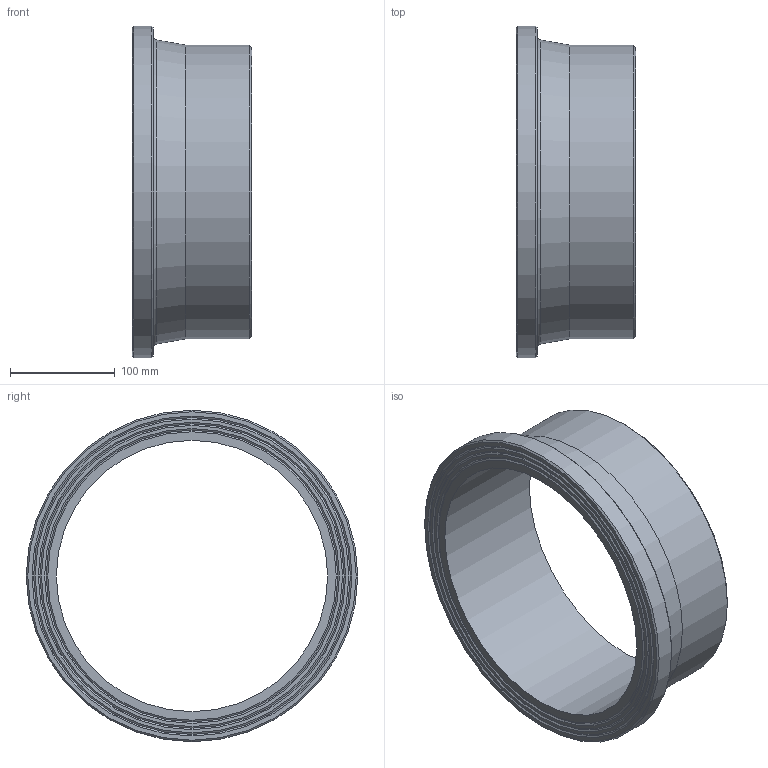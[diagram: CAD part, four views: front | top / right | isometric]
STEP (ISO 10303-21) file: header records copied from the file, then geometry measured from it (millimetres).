
FILE_DESCRIPTION(/* description */ ('Unknown'),/* implementation_level */ '2;1');
FILE_NAME(/* name */ 'CCP280A',/* time_stamp */ '2022-04-05T10:19:31+02:00',/* author */ ('Unknown'),/* organization */ ('Unknown'),/* preprocessor_version */ 'ST-DEVELOPER v18.1',/* originating_system */ 'Solid Edge',/* authorisation */ 'Unknown');
FILE_SCHEMA (('AUTOMOTIVE_DESIGN {1 0 10303 214 3 1 1}'));
Length unit declared in the file: millimetre
Products named in the file (1): CCP280A
Bounding box: 114 x 316 x 316 mm (x, y, z)
Volume: 1437586.5 mm3; surface area: 240900.7 mm2
Topology: 1 solids, 1 shells, 20 faces, 35 edges, 21 vertices
Faces by surface type: cone 10, plane 6, cylinder 3, torus 1
Full cylindrical faces by diameter (mm): 258.6 x1, 280 x1, 316 x1
Entity records: 438 total; most frequent: DIRECTION 82, CARTESIAN_POINT 61, AXIS2_PLACEMENT_3D 41, ORIENTED_EDGE 40, EDGE_LOOP 40, FACE_BOUND 40, EDGE_CURVE 20, VERTEX_POINT 20
